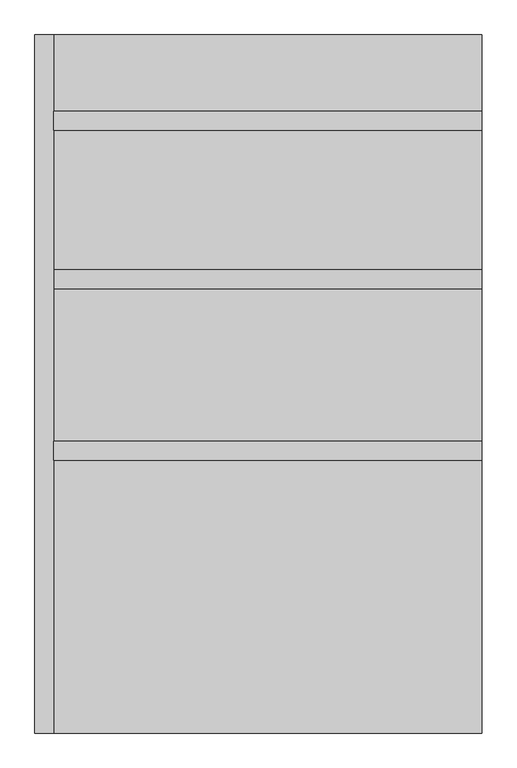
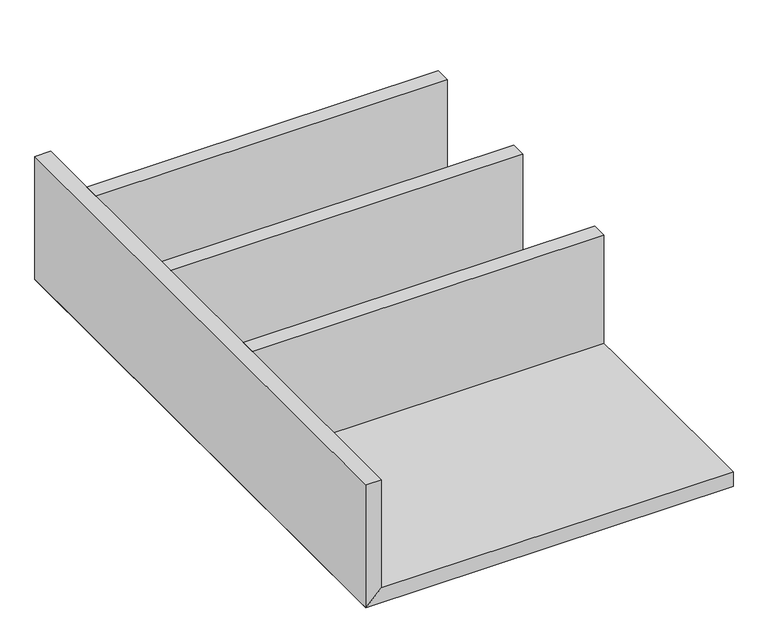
"""IFC4 building model written with IfcOpenShell, lengths in millimetres: proxy geometry, FOUNDATION^PO5_CORNER SHELVES RT-PARTS SOLID."""

import ifcopenshell
import ifcopenshell.guid

model = None  # the IFC model being written
_history = None  # IfcOwnerHistory: only IFC2X3 demands one
_inside = {}  # id of a spatial element -> (the spatial element, [elements in it])
_under = {}  # id of a project, library or spatial element -> (it, [spatial elements below it])
_declared = {}  # id of a project -> (the project, [libraries it declares])
_typed = {}  # id of a type object -> (the type object, [elements of that type])
_made_of = {}  # id of a material, layer set ... -> (it, [elements and type objects made of it])


def new_model(schema):
    """Start an empty IFC model of exactly this schema.

    Asked for "IFC4X3", IfcOpenShell would pick the latest addendum, in which some entities
    have other attributes; the version numbers below select the first issue.
    IFC2X3 requires an IfcOwnerHistory on every rooted entity: one is made here for all.
    """
    global model, _history
    if schema == "IFC4X3":
        model = ifcopenshell.file(schema_version=(4, 3, 0, 0))
    else:
        model = ifcopenshell.file(schema=schema)
    _inside.clear()
    _under.clear()
    _declared.clear()
    _typed.clear()
    _made_of.clear()
    _history = None
    if model.schema == "IFC2X3":
        org = make("IfcOrganization", Name="unknown")
        user = make(
            "IfcPersonAndOrganization",
            ThePerson=make("IfcPerson", FamilyName="unknown"),
            TheOrganization=org,
        )
        app = make(
            "IfcApplication",
            ApplicationDeveloper=org,
            Version="unknown",
            ApplicationFullName="unknown",
            ApplicationIdentifier="unknown",
        )
        _history = make(
            "IfcOwnerHistory",
            OwningUser=user,
            OwningApplication=app,
            ChangeAction="ADDED",
            CreationDate=0,
        )
    return model


def make(cls, **values):
    """One entity of the class cls with the attributes given. An attribute that is None is left unset."""
    return model.create_entity(
        cls, **{name: value for name, value in values.items() if value is not None}
    )


def rooted(cls, **values):
    """An entity with a GlobalId (a new one), such as an element, a storey or a relation."""
    return make(cls, GlobalId=ifcopenshell.guid.new(), OwnerHistory=_history, **values)


def si_unit(unit_type, name, prefix=None):
    """IfcSIUnit, for example si_unit("LENGTHUNIT", "METRE", prefix="MILLI")."""
    return make("IfcSIUnit", UnitType=unit_type, Prefix=prefix, Name=name)


def assignment(units):
    """IfcUnitAssignment: the units of a project."""
    return None if units is None else make("IfcUnitAssignment", Units=units)


def point(xyz):
    """IfcCartesianPoint."""
    return None if xyz is None else make("IfcCartesianPoint", Coordinates=xyz)


def direction(xyz):
    """IfcDirection."""
    return None if xyz is None else make("IfcDirection", DirectionRatios=xyz)


def frame(location, z_axis=None, x_axis=None):
    """IfcAxis2Placement3D, a coordinate frame: its origin and axes. An axis left out is left unset."""
    return make(
        "IfcAxis2Placement3D",
        Location=point(location),
        Axis=direction(z_axis),
        RefDirection=direction(x_axis),
    )


def origin():
    """The frame at (0, 0, 0) with its axes left unset."""
    return frame((0.0, 0.0, 0.0))


def origin_with_axes():
    """The frame at (0, 0, 0) with the z axis (0, 0, 1) and the x axis (1, 0, 0) written out."""
    return frame((0.0, 0.0, 0.0), z_axis=(0.0, 0.0, 1.0), x_axis=(1.0, 0.0, 0.0))


def place(relative_to, where):
    """IfcLocalPlacement: puts the frame where relative to a parent placement (None: the world)."""
    return make(
        "IfcLocalPlacement", PlacementRelTo=relative_to, RelativePlacement=where
    )


def context(
    kind, dimensions, precision=None, world=None, true_north=None, identifier=None
):
    """IfcGeometricRepresentationContext, for example the 3D "Model" context."""
    return make(
        "IfcGeometricRepresentationContext",
        ContextIdentifier=identifier,
        ContextType=kind,
        CoordinateSpaceDimension=dimensions,
        Precision=precision,
        WorldCoordinateSystem=world,
        TrueNorth=true_north,
    )


def project(units=None, contexts=None):
    """IfcProject with its units and contexts."""
    return rooted(
        "IfcProject",
        Name="project",
        RepresentationContexts=contexts,
        UnitsInContext=assignment(units),
    )


def spatial(cls, under=None, at=None, **own):
    """A site, building, storey or space (cls), placed at a placement, below another one or the project."""
    s = rooted(cls, ObjectPlacement=at, **own)
    if under is not None:
        _under.setdefault(under.id(), (under, []))[1].append(s)
    return s


def polyline(points):
    """IfcPolyline through the points."""
    return make("IfcPolyline", Points=[point(p) for p in points])


def outline(outer, holes=None, kind="AREA"):
    """IfcArbitraryClosedProfileDef: a profile drawn as a closed curve; with holes, ...WithVoids."""
    if holes is None:
        return make("IfcArbitraryClosedProfileDef", ProfileType=kind, OuterCurve=outer)
    return make(
        "IfcArbitraryProfileDefWithVoids",
        ProfileType=kind,
        OuterCurve=outer,
        InnerCurves=holes,
    )


def extrude(swept, where, along, depth):
    """IfcExtrudedAreaSolid: the profile swept, set in the frame where, extruded along a direction by depth."""
    return make(
        "IfcExtrudedAreaSolid",
        SweptArea=swept,
        Position=where,
        ExtrudedDirection=direction(along),
        Depth=depth,
    )


def shape(context_of_items, identifier, shape_type, items):
    """IfcShapeRepresentation: the items that make up one representation, for example the "Body"."""
    return make(
        "IfcShapeRepresentation",
        ContextOfItems=context_of_items,
        RepresentationIdentifier=identifier,
        RepresentationType=shape_type,
        Items=items,
    )


def source(mapping_origin, context_of_items, identifier, shape_type, items):
    """IfcRepresentationMap: a shape defined once, which mapped items show again and again."""
    return make(
        "IfcRepresentationMap",
        MappingOrigin=mapping_origin,
        MappedRepresentation=shape(context_of_items, identifier, shape_type, items),
    )


def transform(
    local_origin,
    x_axis=None,
    y_axis=None,
    z_axis=None,
    scale=None,
    scale2=None,
    scale3=None,
    uniform=True,
):
    """IfcCartesianTransformationOperator3D, or its non-uniform kind. x_axis, y_axis, z_axis: its Axis1, 2, 3."""
    if uniform:
        return make(
            "IfcCartesianTransformationOperator3D",
            Axis1=direction(x_axis),
            Axis2=direction(y_axis),
            LocalOrigin=point(local_origin),
            Scale=scale,
            Axis3=direction(z_axis),
        )
    return make(
        "IfcCartesianTransformationOperator3DnonUniform",
        Axis1=direction(x_axis),
        Axis2=direction(y_axis),
        LocalOrigin=point(local_origin),
        Scale=scale,
        Axis3=direction(z_axis),
        Scale2=scale2,
        Scale3=scale3,
    )


def mapped(mapping_source, mapping_target):
    """IfcMappedItem: shows the shape of a source again, moved by a transform."""
    return make(
        "IfcMappedItem", MappingSource=mapping_source, MappingTarget=mapping_target
    )


def made_of(thing, what):
    """Note that an element or type object is made of a material, layer set ...; save() writes the relation."""
    if what is not None:
        _made_of.setdefault(what.id(), (what, []))[1].append(thing)
    return thing


def element(
    cls,
    number,
    at=None,
    inside=None,
    cuts=None,
    type_object=None,
    material=None,
    context=None,
    identifier="Body",
    shape_type=None,
    held_by="IfcProductDefinitionShape",
    body=None,
    shapes=None,
    **own,
):
    """One element of the class cls, such as IfcWall. Its Tag is "e" and its number.

    at: its placement. inside: the storey or other place that contains it. cuts: it is an
    opening in that element (IfcRelVoidsElement). A single representation is given by context,
    identifier, shape_type and body (its items); several are given by shapes. held_by: the class
    of the entity that holds the representations. save() writes the other relations.
    """
    e = rooted(cls, Tag="e%d" % number, ObjectPlacement=at, **own)
    if body is not None:
        shapes = [shape(context, identifier, shape_type, body)]
    if shapes is not None:
        e.Representation = make(held_by, Representations=shapes)
    if inside is not None:
        _inside.setdefault(inside.id(), (inside, []))[1].append(e)
    if cuts is not None:
        rooted(
            "IfcRelVoidsElement", RelatingBuildingElement=cuts, RelatedOpeningElement=e
        )
    if type_object is not None:
        _typed.setdefault(type_object.id(), (type_object, []))[1].append(e)
    return made_of(e, material)


def aggregate(whole, parts):
    """IfcRelAggregates: a whole, such as a stair, and the parts it consists of."""
    return rooted("IfcRelAggregates", RelatingObject=whole, RelatedObjects=parts)


def save(model, path):
    """Write the relations noted so far, then the file.

    IfcRelAggregates (storeys below a building ...), IfcRelContainedInSpatialStructure (elements
    in a storey), IfcRelDefinesByType, IfcRelAssociatesMaterial and IfcRelDeclares: one each for
    every whole, place, type object, material and project.
    """
    for whole, parts in _under.values():
        aggregate(whole, parts)
    for where, things in _inside.values():
        rooted(
            "IfcRelContainedInSpatialStructure",
            RelatedElements=things,
            RelatingStructure=where,
        )
    for kind, things in _typed.values():
        rooted("IfcRelDefinesByType", RelatedObjects=things, RelatingType=kind)
    for what, things in _made_of.values():
        rooted("IfcRelAssociatesMaterial", RelatedObjects=things, RelatingMaterial=what)
    for by, libraries in _declared.values():
        rooted("IfcRelDeclares", RelatingContext=by, RelatedDefinitions=libraries)
    model.write(path)


def generic_models_bcdf64a1(model_context):
    return source(origin(), model_context, "Body", "SweptSolid", [
        extrude(outline(polyline([(895.35, 584.2), (895.35, 546.1), (38.1, 546.1), (38.1, 584.2), (895.35, 584.2)])), origin_with_axes(), (0.0, 0.0, 1.0), 279.4),
        extrude(outline(polyline([(895.35, 1244.6), (895.35, 1206.5), (38.1, 1206.5), (38.1, 1244.6), (895.35, 1244.6)])), origin_with_axes(), (0.0, 0.0, 1.0), 279.4),
        extrude(outline(polyline([(0.0, 38.1), (-38.1, 0.0), (-38.1, 895.35), (0.0, 895.35), (0.0, 38.1)])), frame((0.0, 0.0, 0.0), z_axis=(0.0, 1.0, 0.0), x_axis=(0.0, 0.0, 1.0)), (0.0, 0.0, 1.0), 1397.0),
        extrude(outline(polyline([(0.0, 38.1), (279.4, 38.1), (279.4, 0.0), (-38.1, 0.0), (0.0, 38.1)])), frame((0.0, 0.0, 0.0), z_axis=(0.0, 1.0, 0.0), x_axis=(0.0, 0.0, 1.0)), (0.0, 0.0, 1.0), 1397.0),
        extrude(outline(polyline([(895.35, 889.0), (38.1, 889.0), (38.1, 927.1), (895.35, 927.1), (895.35, 889.0)])), origin_with_axes(), (0.0, 0.0, 1.0), 279.4),
    ])


if __name__ == "__main__":
    model = new_model("IFC4")
    model_context = context("Model", 3, world=origin())
    ifc_project = project(units=[si_unit("LENGTHUNIT", "METRE", prefix="MILLI")], contexts=[model_context])
    site = spatial("IfcSite", under=ifc_project)
    building = spatial("IfcBuilding", under=site)
    placement = place(None, origin())
    generic_models_shape = generic_models_bcdf64a1(model_context)
    element("IfcBuildingElementProxy", 1, Name="FOUNDATION^PO5_CORNER SHELVES RT-PARTS SOLID", ObjectType="FOUNDATION^PO5_CORNER SHELVES RT-PARTS SOLID", at=placement, inside=building, context=model_context, shape_type="MappedRepresentation", body=[
        mapped(generic_models_shape, transform((0.0, 0.0, 0.0), x_axis=(1.0, 0.0, 0.0), y_axis=(0.0, 1.0, 0.0), z_axis=(0.0, 0.0, 1.0))),
    ])
    save(model, "model.ifc")
